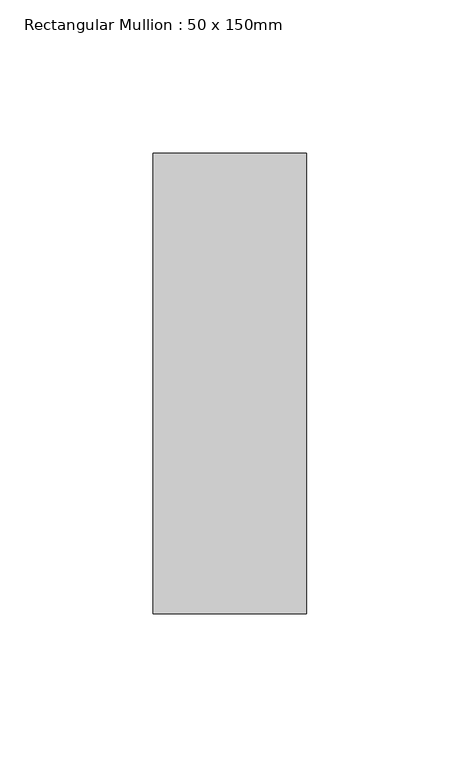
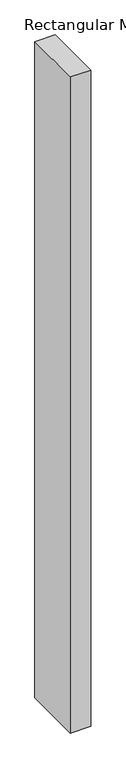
"""IFC4 building model written with IfcOpenShell, lengths in millimetres: member geometry, Rectangular Mullion : 50 x 150mm."""

import ifcopenshell
import ifcopenshell.guid

model = None  # the IFC model being written
_history = None  # IfcOwnerHistory: only IFC2X3 demands one
_inside = {}  # id of a spatial element -> (the spatial element, [elements in it])
_under = {}  # id of a project, library or spatial element -> (it, [spatial elements below it])
_declared = {}  # id of a project -> (the project, [libraries it declares])
_typed = {}  # id of a type object -> (the type object, [elements of that type])
_made_of = {}  # id of a material, layer set ... -> (it, [elements and type objects made of it])


def new_model(schema):
    """Start an empty IFC model of exactly this schema.

    Asked for "IFC4X3", IfcOpenShell would pick the latest addendum, in which some entities
    have other attributes; the version numbers below select the first issue.
    IFC2X3 requires an IfcOwnerHistory on every rooted entity: one is made here for all.
    """
    global model, _history
    if schema == "IFC4X3":
        model = ifcopenshell.file(schema_version=(4, 3, 0, 0))
    else:
        model = ifcopenshell.file(schema=schema)
    _inside.clear()
    _under.clear()
    _declared.clear()
    _typed.clear()
    _made_of.clear()
    _history = None
    if model.schema == "IFC2X3":
        org = make("IfcOrganization", Name="unknown")
        user = make(
            "IfcPersonAndOrganization",
            ThePerson=make("IfcPerson", FamilyName="unknown"),
            TheOrganization=org,
        )
        app = make(
            "IfcApplication",
            ApplicationDeveloper=org,
            Version="unknown",
            ApplicationFullName="unknown",
            ApplicationIdentifier="unknown",
        )
        _history = make(
            "IfcOwnerHistory",
            OwningUser=user,
            OwningApplication=app,
            ChangeAction="ADDED",
            CreationDate=0,
        )
    return model


def make(cls, **values):
    """One entity of the class cls with the attributes given. An attribute that is None is left unset."""
    return model.create_entity(
        cls, **{name: value for name, value in values.items() if value is not None}
    )


def rooted(cls, **values):
    """An entity with a GlobalId (a new one), such as an element, a storey or a relation."""
    return make(cls, GlobalId=ifcopenshell.guid.new(), OwnerHistory=_history, **values)


def si_unit(unit_type, name, prefix=None):
    """IfcSIUnit, for example si_unit("LENGTHUNIT", "METRE", prefix="MILLI")."""
    return make("IfcSIUnit", UnitType=unit_type, Prefix=prefix, Name=name)


def assignment(units):
    """IfcUnitAssignment: the units of a project."""
    return None if units is None else make("IfcUnitAssignment", Units=units)


def point(xyz):
    """IfcCartesianPoint."""
    return None if xyz is None else make("IfcCartesianPoint", Coordinates=xyz)


def direction(xyz):
    """IfcDirection."""
    return None if xyz is None else make("IfcDirection", DirectionRatios=xyz)


def frame(location, z_axis=None, x_axis=None):
    """IfcAxis2Placement3D, a coordinate frame: its origin and axes. An axis left out is left unset."""
    return make(
        "IfcAxis2Placement3D",
        Location=point(location),
        Axis=direction(z_axis),
        RefDirection=direction(x_axis),
    )


def origin():
    """The frame at (0, 0, 0) with its axes left unset."""
    return frame((0.0, 0.0, 0.0))


def place(relative_to, where):
    """IfcLocalPlacement: puts the frame where relative to a parent placement (None: the world)."""
    return make(
        "IfcLocalPlacement", PlacementRelTo=relative_to, RelativePlacement=where
    )


def context(
    kind, dimensions, precision=None, world=None, true_north=None, identifier=None
):
    """IfcGeometricRepresentationContext, for example the 3D "Model" context."""
    return make(
        "IfcGeometricRepresentationContext",
        ContextIdentifier=identifier,
        ContextType=kind,
        CoordinateSpaceDimension=dimensions,
        Precision=precision,
        WorldCoordinateSystem=world,
        TrueNorth=true_north,
    )


def project(units=None, contexts=None):
    """IfcProject with its units and contexts."""
    return rooted(
        "IfcProject",
        Name="project",
        RepresentationContexts=contexts,
        UnitsInContext=assignment(units),
    )


def spatial(cls, under=None, at=None, **own):
    """A site, building, storey or space (cls), placed at a placement, below another one or the project."""
    s = rooted(cls, ObjectPlacement=at, **own)
    if under is not None:
        _under.setdefault(under.id(), (under, []))[1].append(s)
    return s


def polyline(points):
    """IfcPolyline through the points."""
    return make("IfcPolyline", Points=[point(p) for p in points])


def outline(outer, holes=None, kind="AREA"):
    """IfcArbitraryClosedProfileDef: a profile drawn as a closed curve; with holes, ...WithVoids."""
    if holes is None:
        return make("IfcArbitraryClosedProfileDef", ProfileType=kind, OuterCurve=outer)
    return make(
        "IfcArbitraryProfileDefWithVoids",
        ProfileType=kind,
        OuterCurve=outer,
        InnerCurves=holes,
    )


def extrude(swept, where, along, depth):
    """IfcExtrudedAreaSolid: the profile swept, set in the frame where, extruded along a direction by depth."""
    return make(
        "IfcExtrudedAreaSolid",
        SweptArea=swept,
        Position=where,
        ExtrudedDirection=direction(along),
        Depth=depth,
    )


def shape(context_of_items, identifier, shape_type, items):
    """IfcShapeRepresentation: the items that make up one representation, for example the "Body"."""
    return make(
        "IfcShapeRepresentation",
        ContextOfItems=context_of_items,
        RepresentationIdentifier=identifier,
        RepresentationType=shape_type,
        Items=items,
    )


def source(mapping_origin, context_of_items, identifier, shape_type, items):
    """IfcRepresentationMap: a shape defined once, which mapped items show again and again."""
    return make(
        "IfcRepresentationMap",
        MappingOrigin=mapping_origin,
        MappedRepresentation=shape(context_of_items, identifier, shape_type, items),
    )


def transform(
    local_origin,
    x_axis=None,
    y_axis=None,
    z_axis=None,
    scale=None,
    scale2=None,
    scale3=None,
    uniform=True,
):
    """IfcCartesianTransformationOperator3D, or its non-uniform kind. x_axis, y_axis, z_axis: its Axis1, 2, 3."""
    if uniform:
        return make(
            "IfcCartesianTransformationOperator3D",
            Axis1=direction(x_axis),
            Axis2=direction(y_axis),
            LocalOrigin=point(local_origin),
            Scale=scale,
            Axis3=direction(z_axis),
        )
    return make(
        "IfcCartesianTransformationOperator3DnonUniform",
        Axis1=direction(x_axis),
        Axis2=direction(y_axis),
        LocalOrigin=point(local_origin),
        Scale=scale,
        Axis3=direction(z_axis),
        Scale2=scale2,
        Scale3=scale3,
    )


def mapped(mapping_source, mapping_target):
    """IfcMappedItem: shows the shape of a source again, moved by a transform."""
    return make(
        "IfcMappedItem", MappingSource=mapping_source, MappingTarget=mapping_target
    )


def made_of(thing, what):
    """Note that an element or type object is made of a material, layer set ...; save() writes the relation."""
    if what is not None:
        _made_of.setdefault(what.id(), (what, []))[1].append(thing)
    return thing


def element(
    cls,
    number,
    at=None,
    inside=None,
    cuts=None,
    type_object=None,
    material=None,
    context=None,
    identifier="Body",
    shape_type=None,
    held_by="IfcProductDefinitionShape",
    body=None,
    shapes=None,
    **own,
):
    """One element of the class cls, such as IfcWall. Its Tag is "e" and its number.

    at: its placement. inside: the storey or other place that contains it. cuts: it is an
    opening in that element (IfcRelVoidsElement). A single representation is given by context,
    identifier, shape_type and body (its items); several are given by shapes. held_by: the class
    of the entity that holds the representations. save() writes the other relations.
    """
    e = rooted(cls, Tag="e%d" % number, ObjectPlacement=at, **own)
    if body is not None:
        shapes = [shape(context, identifier, shape_type, body)]
    if shapes is not None:
        e.Representation = make(held_by, Representations=shapes)
    if inside is not None:
        _inside.setdefault(inside.id(), (inside, []))[1].append(e)
    if cuts is not None:
        rooted(
            "IfcRelVoidsElement", RelatingBuildingElement=cuts, RelatedOpeningElement=e
        )
    if type_object is not None:
        _typed.setdefault(type_object.id(), (type_object, []))[1].append(e)
    return made_of(e, material)


def aggregate(whole, parts):
    """IfcRelAggregates: a whole, such as a stair, and the parts it consists of."""
    return rooted("IfcRelAggregates", RelatingObject=whole, RelatedObjects=parts)


def save(model, path):
    """Write the relations noted so far, then the file.

    IfcRelAggregates (storeys below a building ...), IfcRelContainedInSpatialStructure (elements
    in a storey), IfcRelDefinesByType, IfcRelAssociatesMaterial and IfcRelDeclares: one each for
    every whole, place, type object, material and project.
    """
    for whole, parts in _under.values():
        aggregate(whole, parts)
    for where, things in _inside.values():
        rooted(
            "IfcRelContainedInSpatialStructure",
            RelatedElements=things,
            RelatingStructure=where,
        )
    for kind, things in _typed.values():
        rooted("IfcRelDefinesByType", RelatedObjects=things, RelatingType=kind)
    for what, things in _made_of.values():
        rooted("IfcRelAssociatesMaterial", RelatedObjects=things, RelatingMaterial=what)
    for by, libraries in _declared.values():
        rooted("IfcRelDeclares", RelatingContext=by, RelatedDefinitions=libraries)
    model.write(path)


def rectangular_mullion_50_x_150mm_c8600b0d(model_context):
    return source(origin(), model_context, "Body", "SweptSolid", [
        extrude(outline(polyline([(0.0, 75.0), (0.0, -75.0), (-50.0, -75.0), (-50.0, 75.0), (0.0, 75.0)])), frame((0.0, 0.0, -1700.0), z_axis=(0.0, 0.0, 1.0), x_axis=(1.0, 0.0, 0.0)), (0.0, 0.0, 1.0), 1700.0),
    ])


if __name__ == "__main__":
    model = new_model("IFC4")
    model_context = context("Model", 3, world=origin())
    ifc_project = project(units=[si_unit("LENGTHUNIT", "METRE", prefix="MILLI")], contexts=[model_context])
    site = spatial("IfcSite", under=ifc_project)
    building = spatial("IfcBuilding", under=site)
    placement = place(None, origin())
    rectangular_mullion_50_x_150mm_shape = rectangular_mullion_50_x_150mm_c8600b0d(model_context)
    element("IfcMember", 1, ObjectType="Rectangular Mullion : 50 x 150mm", at=placement, inside=building, context=model_context, shape_type="MappedRepresentation", body=[
        mapped(rectangular_mullion_50_x_150mm_shape, transform((0.0, 0.0, 0.0), x_axis=(1.0, 0.0, 0.0), y_axis=(0.0, 1.0, 0.0), z_axis=(0.0, 0.0, 1.0))),
    ])
    save(model, "model.ifc")
